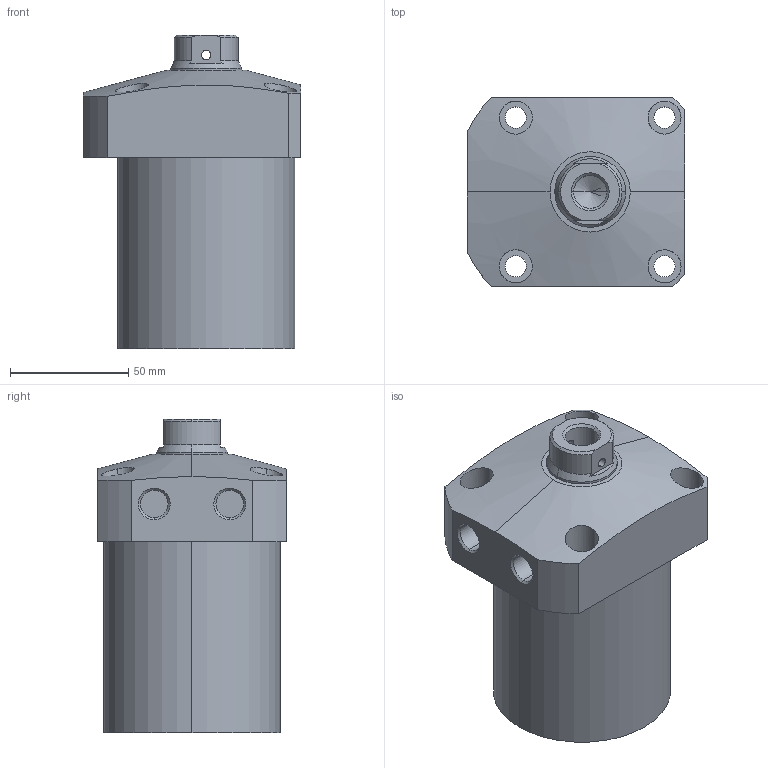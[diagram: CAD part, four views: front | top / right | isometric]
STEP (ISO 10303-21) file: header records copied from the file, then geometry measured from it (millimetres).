
FILE_DESCRIPTION (( 'STEP AP203' ), '1' );
FILE_NAME ('CLL-075CB-065.STEP', '2019-12-20T07:38:29', ( '' ), ( '' ), 'SwSTEP 2.0', 'SolidWorks 2015', '' );
FILE_SCHEMA (( 'CONFIG_CONTROL_DESIGN' ));
Length unit declared in the file: millimetre
Products named in the file (1): CLL-075CB-065
Bounding box: 92 x 80 x 133 mm (x, y, z)
Volume: 580417.8 mm3; surface area: 50439.8 mm2
Topology: 1 solids, 1 shells, 76 faces, 181 edges, 116 vertices
Faces by surface type: cylinder 39, plane 22, cone 15
Entity records: 2809 total; most frequent: CARTESIAN_POINT 932, DIRECTION 386, ORIENTED_EDGE 358, EDGE_CURVE 179, AXIS2_PLACEMENT_3D 158, VERTEX_POINT 116, EDGE_LOOP 99, CIRCLE 81
